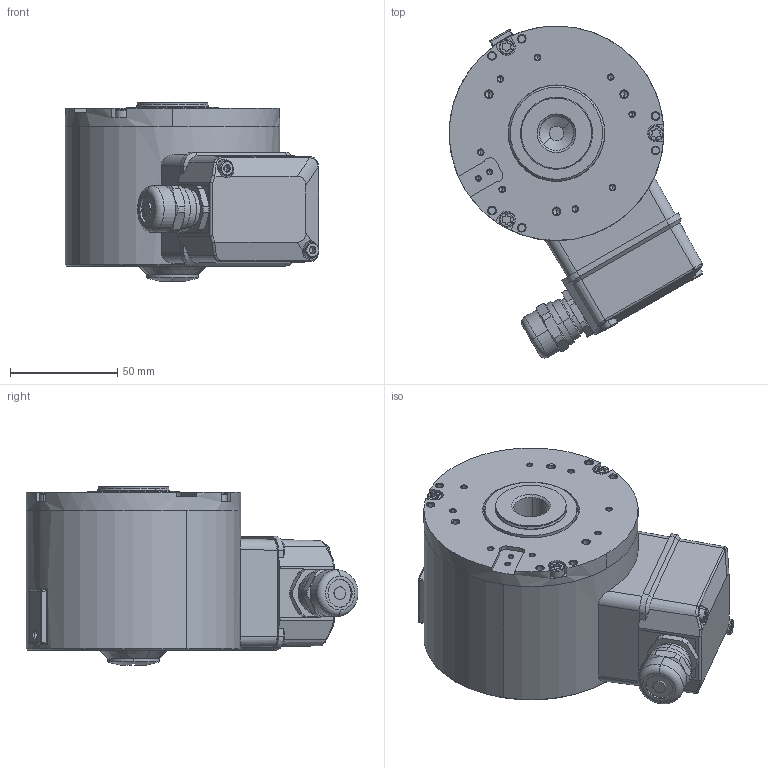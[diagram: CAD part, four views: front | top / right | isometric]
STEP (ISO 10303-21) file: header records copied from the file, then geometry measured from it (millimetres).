
FILE_DESCRIPTION (( 'STEP AP214' ), '1' );
FILE_NAME ('8.H120.1B5K.1024.STEP', '2014-03-19T13:07:24', ( 'LauferA' ), ( 'Microsoft' ), 'SwSTEP 2.0', 'SolidWorks 2013', '' );
FILE_SCHEMA (( 'AUTOMOTIVE_DESIGN' ));
Length unit declared in the file: millimetre
Products named in the file (1): 8.H120.1B5K.1024
Bounding box: 118.2 x 154.69 x 83 mm (x, y, z)
Volume: 326793.6 mm3; surface area: 137345 mm2
Topology: 15 solids, 15 shells, 976 faces, 2324 edges, 1383 vertices
Faces by surface type: cylinder 354, cone 305, plane 224, torus 56, bspline 27, sphere 10
Entity records: 39657 total; most frequent: CARTESIAN_POINT 6062, DIRECTION 5107, ORIENTED_EDGE 4512, EDGE_CURVE 2256, AXIS2_PLACEMENT_3D 2042, VERTEX_POINT 1383, EDGE_LOOP 1093, CIRCLE 1092
